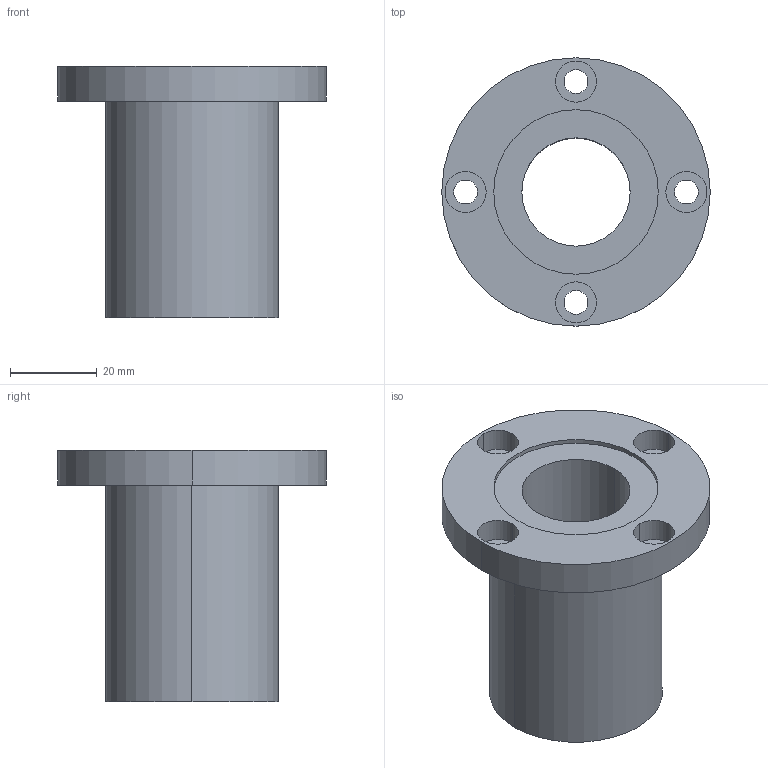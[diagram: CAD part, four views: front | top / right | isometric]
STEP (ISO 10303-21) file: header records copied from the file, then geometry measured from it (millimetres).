
FILE_DESCRIPTION((''),'2;1');
FILE_NAME('C:\Documents and Settings\ｿﾀﾀ蠑ｷ1\ｹﾙﾅﾁ ﾈｭｸ饅\ｺﾎﾇｰﾆﾄﾀﾏ\ﾁｦﾇｰ\LMEF__UU\LMEF25UU.stp','2005-06-15T10:50:58',('ｿﾀﾀ蠑ｷ1'),(''),'Autodesk Inventor 9','Autodesk Inventor 9','');
FILE_SCHEMA(('AUTOMOTIVE_DESIGN { 1 0 10303 214 1 1 1 1 }'));
Length unit declared in the file: millimetre
Products named in the file (1): LMEF__(L)
Bounding box: 62 x 62 x 58 mm (x, y, z)
Volume: 55449.3 mm3; surface area: 18169 mm2
Topology: 1 solids, 1 shells, 35 faces, 78 edges, 52 vertices
Faces by surface type: bspline 20, cylinder 10, plane 5
Entity records: 1255 total; most frequent: CARTESIAN_POINT 450, DIRECTION 162, ORIENTED_EDGE 156, EDGE_CURVE 78, AXIS2_PLACEMENT_3D 68, VERTEX_POINT 52, CIRCLE 52, EDGE_LOOP 52
